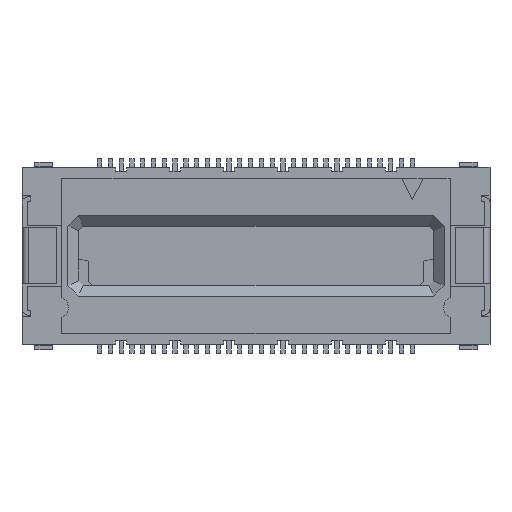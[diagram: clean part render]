
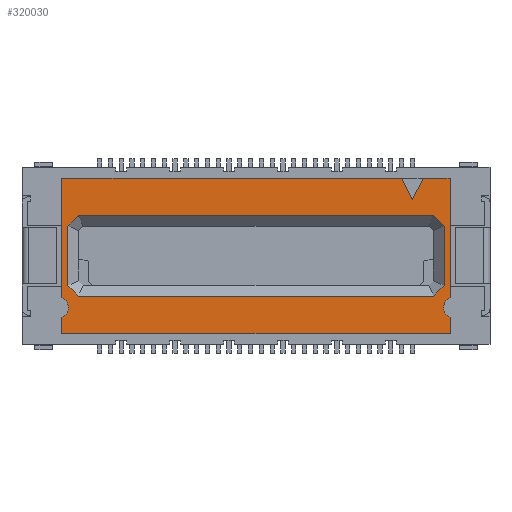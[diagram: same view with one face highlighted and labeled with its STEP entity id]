
A CAD part, top view. The second image highlights one B-rep face of the part: STEP entity #320030.
In plain terms, the highlighted planar face has unit normal (0, 0, 1).
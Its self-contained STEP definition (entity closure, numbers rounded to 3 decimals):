
#2320=CARTESIAN_POINT('',(20.034,-0.955,4.));
#2330=VERTEX_POINT('',#2320);
#2360=CARTESIAN_POINT('',(19.787,-1.202,4.));
#2370=DIRECTION('',(-0.707,-0.707,0.));
#2380=VECTOR('',#2370,1.);
#2390=LINE('',#2360,#2380);
#2400=CARTESIAN_POINT('',(19.541,-1.448,4.));
#2410=VERTEX_POINT('',#2400);
#2420=EDGE_CURVE('',#2330,#2410,#2390,.T.);
#43370=CARTESIAN_POINT('',(19.541,2.292,4.));
#43380=VERTEX_POINT('',#43370);
#43410=CARTESIAN_POINT('',(19.787,2.045,4.));
#43420=DIRECTION('',(0.707,-0.707,0.));
#43430=VECTOR('',#43420,1.);
#43440=LINE('',#43410,#43430);
#43450=CARTESIAN_POINT('',(20.034,1.799,4.));
#43460=VERTEX_POINT('',#43450);
#43470=EDGE_CURVE('',#43380,#43460,#43440,.T.);
#60740=CARTESIAN_POINT('',(3.076,-1.448,4.));
#60750=VERTEX_POINT('',#60740);
#60850=CARTESIAN_POINT('',(-10.581,-1.448,4.));
#60860=DIRECTION('',(-1.,0.,0.));
#60870=VECTOR('',#60860,1.);
#60880=LINE('',#60850,#60870);
#60890=EDGE_CURVE('',#2410,#60750,#60880,.T.);
#75370=CARTESIAN_POINT('',(3.076,2.292,4.));
#75380=VERTEX_POINT('',#75370);
#75410=CARTESIAN_POINT('',(-6.946,2.292,4.));
#75420=DIRECTION('',(1.,0.,0.));
#75430=VECTOR('',#75420,1.);
#75440=LINE('',#75410,#75430);
#75450=EDGE_CURVE('',#75380,#43380,#75440,.T.);
#83500=CARTESIAN_POINT('',(20.309,-1.52,4.));
#83510=VERTEX_POINT('',#83500);
#83670=CARTESIAN_POINT('',(20.309,-2.436,4.));
#83680=VERTEX_POINT('',#83670);
#83710=CARTESIAN_POINT('',(20.509,-1.978,4.));
#83720=DIRECTION('',(0.,0.,1.));
#83730=DIRECTION('',(1.,0.,0.));
#83740=AXIS2_PLACEMENT_3D('',#83710,#83720,#83730);
#83750=CIRCLE('',#83740,0.5);
#83760=EDGE_CURVE('',#83510,#83680,#83750,.T.);
#83900=CARTESIAN_POINT('',(20.309,-3.178,4.));
#83910=VERTEX_POINT('',#83900);
#83960=CARTESIAN_POINT('',(20.309,0.,4.));
#83970=DIRECTION('',(0.,-1.,0.));
#83980=VECTOR('',#83970,1.);
#83990=LINE('',#83960,#83980);
#84000=EDGE_CURVE('',#83680,#83910,#83990,.T.);
#89150=CARTESIAN_POINT('',(17.048,0.,4.));
#89160=DIRECTION('',(0.447,0.894,0.));
#89170=VECTOR('',#89160,1.);
#89180=LINE('',#89150,#89170);
#89190=CARTESIAN_POINT('',(18.559,3.022,4.));
#89200=VERTEX_POINT('',#89190);
#89210=CARTESIAN_POINT('',(19.059,4.022,4.));
#89220=VERTEX_POINT('',#89210);
#89230=EDGE_CURVE('',#89200,#89220,#89180,.T.);
#179650=CARTESIAN_POINT('',(20.07,0.,4.));
#179660=DIRECTION('',(0.447,-0.894,0.));
#179670=VECTOR('',#179660,1.);
#179680=LINE('',#179650,#179670);
#179690=CARTESIAN_POINT('',(18.059,4.022,4.));
#179700=VERTEX_POINT('',#179690);
#179710=EDGE_CURVE('',#179700,#89200,#179680,.T.);
#231090=CARTESIAN_POINT('',(20.309,0.,4.));
#231100=DIRECTION('',(0.,-1.,0.));
#231110=VECTOR('',#231100,1.);
#231120=LINE('',#231090,#231110);
#231130=CARTESIAN_POINT('',(20.309,4.022,4.));
#231140=VERTEX_POINT('',#231130);
#231150=EDGE_CURVE('',#231140,#83510,#231120,.T.);
#304960=CARTESIAN_POINT('',(2.309,-2.436,4.));
#304970=VERTEX_POINT('',#304960);
#305000=CARTESIAN_POINT('',(2.309,0.,4.));
#305010=DIRECTION('',(0.,1.,0.));
#305020=VECTOR('',#305010,1.);
#305030=LINE('',#305000,#305020);
#305040=CARTESIAN_POINT('',(2.309,-3.178,4.));
#305050=VERTEX_POINT('',#305040);
#305060=EDGE_CURVE('',#305050,#304970,#305030,.T.);
#310030=CARTESIAN_POINT('',(20.034,0.422,4.));
#310040=DIRECTION('',(0.,1.,0.));
#310050=VECTOR('',#310040,1.);
#310060=LINE('',#310030,#310050);
#310070=EDGE_CURVE('',#2330,#43460,#310060,.T.);
#319300=CARTESIAN_POINT('',(1.309,-2.313,4.));
#319310=DIRECTION('',(0.,0.,1.));
#319320=DIRECTION('',(1.,0.,0.));
#319330=AXIS2_PLACEMENT_3D('',#319300,#319310,#319320);
#319340=PLANE('',#319330);
#319350=ORIENTED_EDGE('',*,*,#2420,.T.);
#319360=ORIENTED_EDGE('',*,*,#310070,.F.);
#319370=ORIENTED_EDGE('',*,*,#43470,.T.);
#319380=ORIENTED_EDGE('',*,*,#75450,.T.);
#319390=CARTESIAN_POINT('',(2.83,2.045,4.));
#319400=DIRECTION('',(-0.707,-0.707,0.));
#319410=VECTOR('',#319400,1.);
#319420=LINE('',#319390,#319410);
#319430=CARTESIAN_POINT('',(2.584,1.799,4.));
#319440=VERTEX_POINT('',#319430);
#319450=EDGE_CURVE('',#75380,#319440,#319420,.T.);
#319460=ORIENTED_EDGE('',*,*,#319450,.F.);
#319470=CARTESIAN_POINT('',(2.584,0.422,4.));
#319480=DIRECTION('',(0.,1.,0.));
#319490=VECTOR('',#319480,1.);
#319500=LINE('',#319470,#319490);
#319510=CARTESIAN_POINT('',(2.584,-0.955,4.));
#319520=VERTEX_POINT('',#319510);
#319530=EDGE_CURVE('',#319520,#319440,#319500,.T.);
#319540=ORIENTED_EDGE('',*,*,#319530,.T.);
#319550=CARTESIAN_POINT('',(2.83,-1.202,4.));
#319560=DIRECTION('',(0.707,-0.707,0.));
#319570=VECTOR('',#319560,1.);
#319580=LINE('',#319550,#319570);
#319590=EDGE_CURVE('',#319520,#60750,#319580,.T.);
#319600=ORIENTED_EDGE('',*,*,#319590,.F.);
#319610=ORIENTED_EDGE('',*,*,#60890,.T.);
#319620=EDGE_LOOP('',(#319610,#319600,#319540,#319460,#319380,#319370,
#319360,#319350));
#319630=FACE_BOUND('',#319620,.T.);
#319640=ORIENTED_EDGE('',*,*,#305060,.F.);
#319650=CARTESIAN_POINT('',(2.109,-1.978,4.));
#319660=DIRECTION('',(0.,0.,-1.));
#319670=DIRECTION('',(-1.,0.,0.));
#319680=AXIS2_PLACEMENT_3D('',#319650,#319660,#319670);
#319690=CIRCLE('',#319680,0.5);
#319700=CARTESIAN_POINT('',(2.309,-1.52,4.));
#319710=VERTEX_POINT('',#319700);
#319720=EDGE_CURVE('',#319710,#304970,#319690,.T.);
#319730=ORIENTED_EDGE('',*,*,#319720,.T.);
#319740=CARTESIAN_POINT('',(2.309,4.022,4.));
#319750=VERTEX_POINT('',#319740);
#319760=EDGE_CURVE('',#319710,#319750,#305030,.T.);
#319770=ORIENTED_EDGE('',*,*,#319760,.F.);
#319780=CARTESIAN_POINT('',(25.,4.022,4.));
#319790=DIRECTION('',(-1.,0.,0.));
#319800=VECTOR('',#319790,1.);
#319810=LINE('',#319780,#319800);
#319820=EDGE_CURVE('',#179700,#319750,#319810,.T.);
#319830=ORIENTED_EDGE('',*,*,#319820,.T.);
#319840=ORIENTED_EDGE('',*,*,#179710,.F.);
#319850=ORIENTED_EDGE('',*,*,#89230,.F.);
#319860=CARTESIAN_POINT('',(5.,4.022,4.));
#319870=DIRECTION('',(-1.,0.,0.));
#319880=VECTOR('',#319870,1.);
#319890=LINE('',#319860,#319880);
#319900=EDGE_CURVE('',#231140,#89220,#319890,.T.);
#319910=ORIENTED_EDGE('',*,*,#319900,.T.);
#319920=ORIENTED_EDGE('',*,*,#231150,.F.);
#319930=ORIENTED_EDGE('',*,*,#83760,.F.);
#319940=ORIENTED_EDGE('',*,*,#84000,.F.);
#319950=CARTESIAN_POINT('',(22.617,-3.178,4.));
#319960=DIRECTION('',(-1.,0.,0.));
#319970=VECTOR('',#319960,1.);
#319980=LINE('',#319950,#319970);
#319990=EDGE_CURVE('',#83910,#305050,#319980,.T.);
#320000=ORIENTED_EDGE('',*,*,#319990,.F.);
#320010=EDGE_LOOP('',(#320000,#319940,#319930,#319920,#319910,#319850,
#319840,#319830,#319770,#319730,#319640));
#320020=FACE_OUTER_BOUND('',#320010,.T.);
#320030=ADVANCED_FACE('',(#319630,#320020),#319340,.T.);
